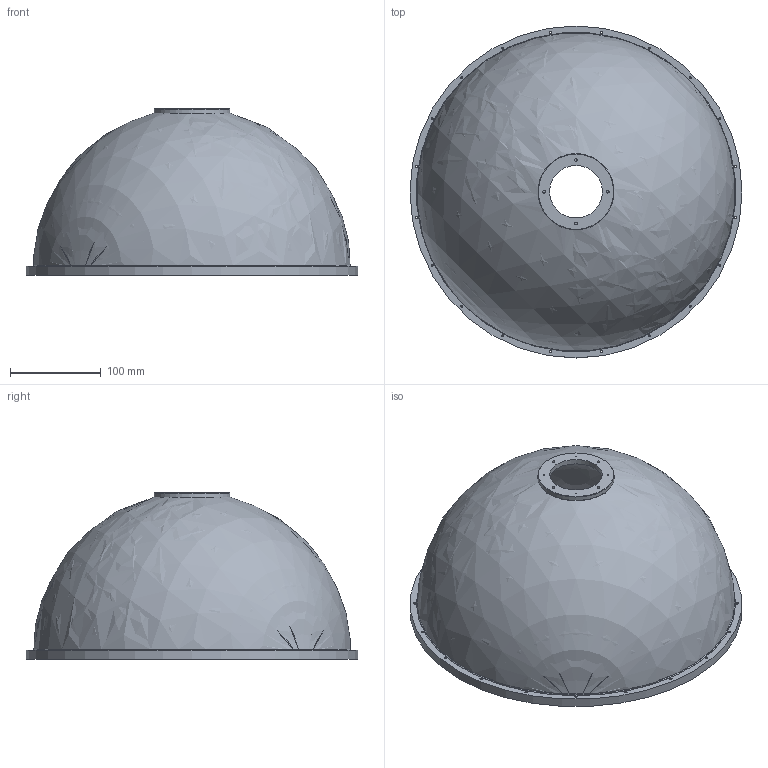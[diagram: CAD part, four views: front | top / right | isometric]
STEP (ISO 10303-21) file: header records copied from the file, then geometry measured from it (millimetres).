
FILE_DESCRIPTION((''),'2;1');
FILE_NAME('D:\上海创波-20181114\2-三维图纸\1-常用光源\WLDD系列\WLDD2A-350-0000-W.stp','2020-01-14T13:10:13',('Administrator'),(''),'Autodesk Inventor 2010','Autodesk Inventor 2010','');
FILE_SCHEMA(('AUTOMOTIVE_DESIGN { 1 0 10303 214 1 1 1 1 }'));
Length unit declared in the file: millimetre
Products named in the file (1): 零件57
Bounding box: 366 x 366 x 183.89 mm (x, y, z)
Volume: 371815.6 mm3; surface area: 502303.6 mm2
Topology: 23 solids, 23 shells, 3075 faces, 7758 edges, 5165 vertices
Faces by surface type: plane 2989, cylinder 81, bspline 2, cone 1, sphere 1, torus 1
Full cylindrical faces by diameter (mm): 1 x22, 2 x24, 2.5 x24, 3 x5, 58 x1, 84 x1, 293 x1, 296 x1, 350 x1, 366 x1
Entity records: 93266 total; most frequent: CARTESIAN_POINT 15991, ORIENTED_EDGE 15342, DIRECTION 14006, EDGE_CURVE 7671, VECTOR 7480, LINE 7480, VERTEX_POINT 5141, EDGE_LOOP 3638
